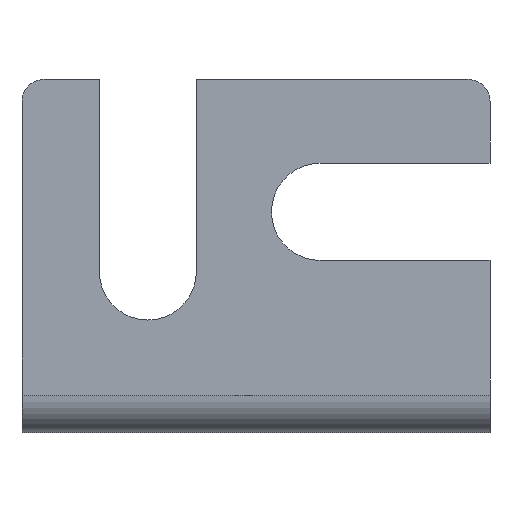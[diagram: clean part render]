
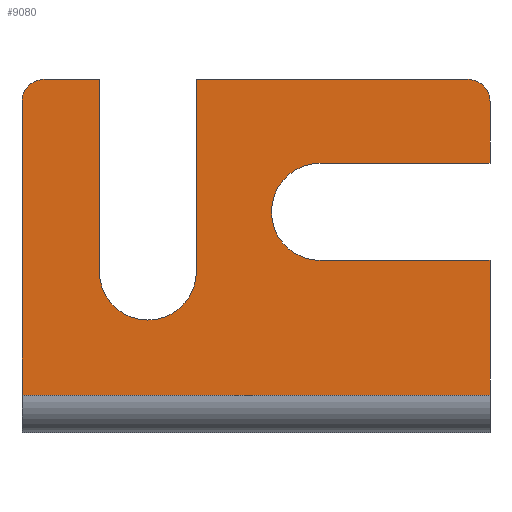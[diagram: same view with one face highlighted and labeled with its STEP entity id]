
A CAD part, front view. The second image highlights one B-rep face of the part: STEP entity #9080.
In plain terms, the highlighted planar face has unit normal (0, -1, 0).
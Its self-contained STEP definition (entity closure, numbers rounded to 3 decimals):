
#4950=CARTESIAN_POINT('',(1515.426,-2498.668,0.5));
#4960=VERTEX_POINT('',#4950);
#4990=CARTESIAN_POINT('',(0.,-2498.668,0.5));
#5000=DIRECTION('',(1.,0.,0.));
#5010=VECTOR('',#5000,1.);
#5020=LINE('',#4990,#5010);
#5030=CARTESIAN_POINT('',(1536.626,-2498.668,0.5));
#5040=VERTEX_POINT('',#5030);
#5050=EDGE_CURVE('',#4960,#5040,#5020,.T.);
#5440=CARTESIAN_POINT('',(1515.426,-2498.668,
13.8));
#5450=VERTEX_POINT('',#5440);
#5480=CARTESIAN_POINT('',(1515.426,-2498.668,
13.8));
#5490=DIRECTION('',(0.,0.,-1.));
#5500=VECTOR('',#5490,1.);
#5510=LINE('',#5480,#5500);
#5520=EDGE_CURVE('',#5450,#4960,#5510,.T.);
#6940=CARTESIAN_POINT('',(1528.926,-2498.668,
6.6));
#6950=VERTEX_POINT('',#6940);
#7030=CARTESIAN_POINT('',(1536.626,-2498.668,
6.6));
#7040=VERTEX_POINT('',#7030);
#7070=CARTESIAN_POINT('',(1528.926,-2498.668,
6.6));
#7080=DIRECTION('',(1.,0.,0.));
#7090=VECTOR('',#7080,1.);
#7100=LINE('',#7070,#7090);
#7110=EDGE_CURVE('',#6950,#7040,#7100,.T.);
#7850=CARTESIAN_POINT('',(1536.626,-2498.668,
0.));
#7860=DIRECTION('',(0.,0.,1.));
#7870=VECTOR('',#7860,1.);
#7880=LINE('',#7850,#7870);
#7890=EDGE_CURVE('',#5040,#7040,#7880,.T.);
#8050=CARTESIAN_POINT('',(1516.426,-2498.668,
14.8));
#8060=VERTEX_POINT('',#8050);
#8090=CARTESIAN_POINT('',(1516.426,-2498.668,
13.8));
#8100=DIRECTION('',(-0.,1.,0.));
#8110=DIRECTION('',(1.,0.,0.));
#8120=AXIS2_PLACEMENT_3D('',#8090,#8100,#8110);
#8130=CIRCLE('',#8120,1.);
#8140=EDGE_CURVE('',#5450,#8060,#8130,.T.);
#8190=CARTESIAN_POINT('',(1525.168,-2498.668,
-0.648));
#8200=DIRECTION('',(0.,-1.,0.));
#8210=DIRECTION('',(1.,0.,0.));
#8220=AXIS2_PLACEMENT_3D('',#8190,#8200,#8210);
#8230=PLANE('',#8220);
#8240=ORIENTED_EDGE('',*,*,#8140,.F.);
#8250=CARTESIAN_POINT('',(1518.926,-2498.668,
14.8));
#8260=DIRECTION('',(-1.,-0.,0.));
#8270=VECTOR('',#8260,1.);
#8280=LINE('',#8250,#8270);
#8290=CARTESIAN_POINT('',(1518.926,-2498.668,
14.8));
#8300=VERTEX_POINT('',#8290);
#8310=EDGE_CURVE('',#8300,#8060,#8280,.T.);
#8320=ORIENTED_EDGE('',*,*,#8310,.T.);
#8330=CARTESIAN_POINT('',(1518.926,-2498.668,
14.8));
#8340=DIRECTION('',(0.,0.,-1.));
#8350=VECTOR('',#8340,1.);
#8360=LINE('',#8330,#8350);
#8370=CARTESIAN_POINT('',(1518.926,-2498.668,
6.1));
#8380=VERTEX_POINT('',#8370);
#8390=EDGE_CURVE('',#8300,#8380,#8360,.T.);
#8400=ORIENTED_EDGE('',*,*,#8390,.F.);
#8410=CARTESIAN_POINT('',(1521.126,-2498.668,
6.1));
#8420=DIRECTION('',(-0.,1.,0.));
#8430=DIRECTION('',(1.,0.,0.));
#8440=AXIS2_PLACEMENT_3D('',#8410,#8420,#8430);
#8450=CIRCLE('',#8440,2.2);
#8460=CARTESIAN_POINT('',(1523.326,-2498.668,
6.1));
#8470=VERTEX_POINT('',#8460);
#8480=EDGE_CURVE('',#8470,#8380,#8450,.T.);
#8490=ORIENTED_EDGE('',*,*,#8480,.T.);
#8500=CARTESIAN_POINT('',(1523.326,-2498.668,
14.8));
#8510=DIRECTION('',(0.,0.,-1.));
#8520=VECTOR('',#8510,1.);
#8530=LINE('',#8500,#8520);
#8540=CARTESIAN_POINT('',(1523.326,-2498.668,
14.8));
#8550=VERTEX_POINT('',#8540);
#8560=EDGE_CURVE('',#8550,#8470,#8530,.T.);
#8570=ORIENTED_EDGE('',*,*,#8560,.T.);
#8580=CARTESIAN_POINT('',(1535.626,-2498.668,
14.8));
#8590=DIRECTION('',(-1.,-0.,0.));
#8600=VECTOR('',#8590,1.);
#8610=LINE('',#8580,#8600);
#8620=CARTESIAN_POINT('',(1535.626,-2498.668,
14.8));
#8630=VERTEX_POINT('',#8620);
#8640=EDGE_CURVE('',#8630,#8550,#8610,.T.);
#8650=ORIENTED_EDGE('',*,*,#8640,.T.);
#8660=CARTESIAN_POINT('',(1535.626,-2498.668,
13.8));
#8670=DIRECTION('',(-0.,1.,0.));
#8680=DIRECTION('',(1.,0.,0.));
#8690=AXIS2_PLACEMENT_3D('',#8660,#8670,#8680);
#8700=CIRCLE('',#8690,1.);
#8710=CARTESIAN_POINT('',(1536.626,-2498.668,
13.8));
#8720=VERTEX_POINT('',#8710);
#8730=EDGE_CURVE('',#8630,#8720,#8700,.T.);
#8740=ORIENTED_EDGE('',*,*,#8730,.F.);
#8750=CARTESIAN_POINT('',(1536.626,-2498.668,
11.));
#8760=DIRECTION('',(0.,0.,1.));
#8770=VECTOR('',#8760,1.);
#8780=LINE('',#8750,#8770);
#8790=CARTESIAN_POINT('',(1536.626,-2498.668,
11.));
#8800=VERTEX_POINT('',#8790);
#8810=EDGE_CURVE('',#8800,#8720,#8780,.T.);
#8820=ORIENTED_EDGE('',*,*,#8810,.T.);
#8830=CARTESIAN_POINT('',(1528.926,-2498.668,
11.));
#8840=DIRECTION('',(1.,0.,0.));
#8850=VECTOR('',#8840,1.);
#8860=LINE('',#8830,#8850);
#8870=CARTESIAN_POINT('',(1528.926,-2498.668,
11.));
#8880=VERTEX_POINT('',#8870);
#8890=EDGE_CURVE('',#8880,#8800,#8860,.T.);
#8900=ORIENTED_EDGE('',*,*,#8890,.T.);
#8910=CARTESIAN_POINT('',(1528.926,-2498.668,
8.8));
#8920=DIRECTION('',(-0.,1.,0.));
#8930=DIRECTION('',(1.,0.,0.));
#8940=AXIS2_PLACEMENT_3D('',#8910,#8920,#8930);
#8950=CIRCLE('',#8940,2.2);
#8960=CARTESIAN_POINT('',(1526.726,-2498.668,
8.8));
#8970=VERTEX_POINT('',#8960);
#8980=EDGE_CURVE('',#8970,#8880,#8950,.T.);
#8990=ORIENTED_EDGE('',*,*,#8980,.T.);
#9000=EDGE_CURVE('',#6950,#8970,#8950,.T.);
#9010=ORIENTED_EDGE('',*,*,#9000,.T.);
#9020=ORIENTED_EDGE('',*,*,#7110,.F.);
#9030=ORIENTED_EDGE('',*,*,#7890,.T.);
#9040=ORIENTED_EDGE('',*,*,#5050,.T.);
#9050=ORIENTED_EDGE('',*,*,#5520,.T.);
#9060=EDGE_LOOP('',(#9050,#9040,#9030,#9020,#9010,#8990,#8900,#8820,
#8740,#8650,#8570,#8490,#8400,#8320,#8240));
#9070=FACE_OUTER_BOUND('',#9060,.T.);
#9080=ADVANCED_FACE('',(#9070),#8230,.T.);
